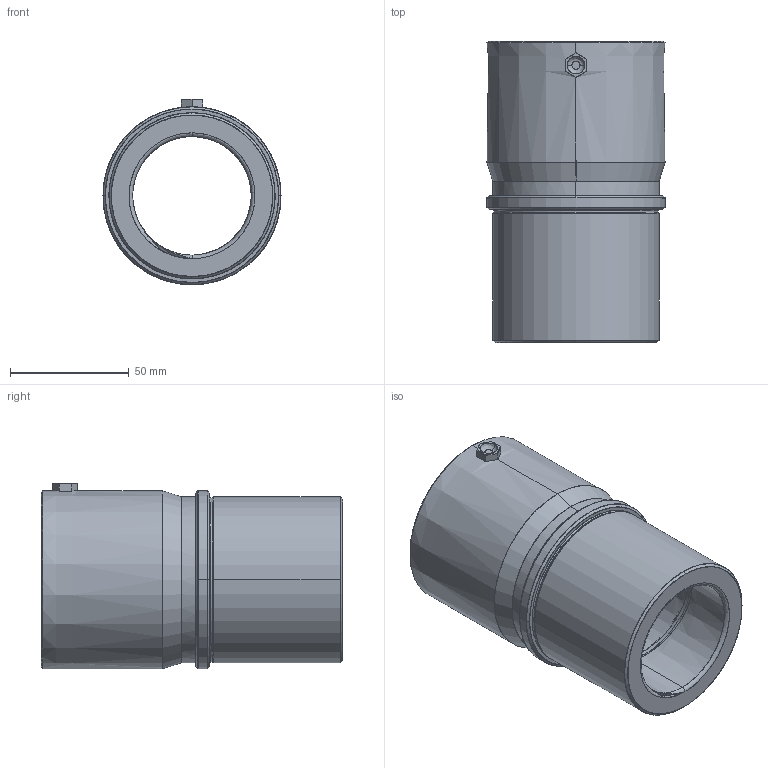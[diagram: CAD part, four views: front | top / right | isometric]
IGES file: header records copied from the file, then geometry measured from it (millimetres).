
Start section: SolidWorks IGES file using analytic representation for surfaces
Global section: file name: C:\Users\Dell\Desktop\deltakont\hatalýlar\D23\Ø50\D23_50x127x56.IGS; native system: SolidWorks 2010; preprocessor: SolidWorks 2010; author: Dell; date: 111224.232649; units: millimetre
Bounding box: 75 x 127 x 78.19 mm (x, y, z)
Surface area: 57006.5 mm2 (no closed solid volume)
Topology: 0 solids, 0 shells, 136 faces, 1869 edges, 1866 vertices
Faces by surface type: bspline 95, revolution 41
